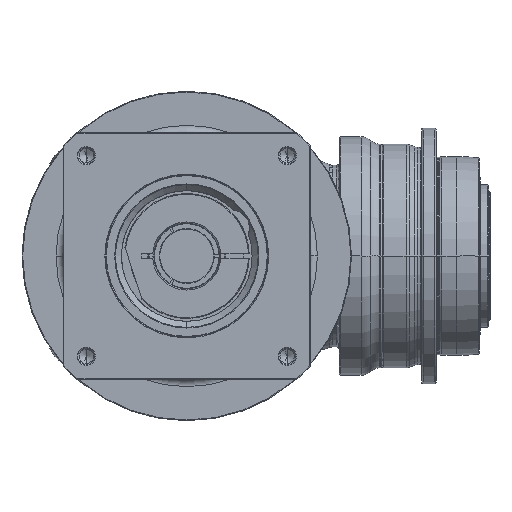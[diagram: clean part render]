
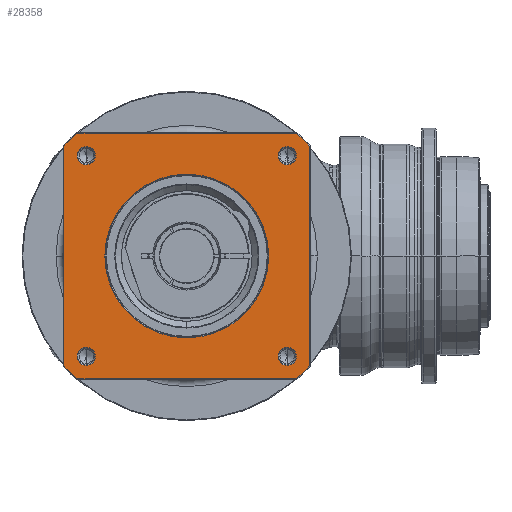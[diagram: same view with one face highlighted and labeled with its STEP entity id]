
A CAD part, front view. The second image highlights one B-rep face of the part: STEP entity #28358.
In plain terms, the highlighted planar face has unit normal (0, -1, 0) as drawn and (0, 0, 1) by its records, which use the part's own axes.
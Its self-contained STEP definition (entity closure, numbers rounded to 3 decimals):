
#27109=CARTESIAN_POINT('',(0.,0.,
76.));
#27110=DIRECTION('',(0.,0.,-1.));
#27111=DIRECTION('',(0.,-1.,0.));
#27112=AXIS2_PLACEMENT_3D('',#27109,#27110,#27111);
#27114=CARTESIAN_POINT('',(0.,0.,
76.));
#27115=DIRECTION('',(0.,0.,-1.));
#27116=DIRECTION('',(0.,1.,0.));
#27117=AXIS2_PLACEMENT_3D('',#27114,#27115,#27116);
#27119=CARTESIAN_POINT('',(0.,0.,76.));
#27120=DIRECTION('',(0.,0.,1.));
#27121=DIRECTION('',(-0.746,-0.666,0.));
#27122=AXIS2_PLACEMENT_3D('',#27119,#27120,#27121);
#27134=DIRECTION('',(1.,0.,0.));
#27135=VECTOR('',#27134,154.58);
#27136=CARTESIAN_POINT('',(-77.29,-86.5,76.));
#27137=LINE('',#27136,#27135);
#27147=CARTESIAN_POINT('',(0.,0.,76.));
#27148=DIRECTION('',(0.,0.,1.));
#27149=DIRECTION('',(0.666,-0.746,0.));
#27150=AXIS2_PLACEMENT_3D('',#27147,#27148,#27149);
#27162=DIRECTION('',(0.,1.,0.));
#27163=VECTOR('',#27162,154.58);
#27164=CARTESIAN_POINT('',(86.5,-77.29,76.));
#27165=LINE('',#27164,#27163);
#27175=CARTESIAN_POINT('',(0.,0.,76.));
#27176=DIRECTION('',(0.,0.,1.));
#27177=DIRECTION('',(0.746,0.666,0.));
#27178=AXIS2_PLACEMENT_3D('',#27175,#27176,#27177);
#27190=DIRECTION('',(-1.,0.,0.));
#27191=VECTOR('',#27190,154.58);
#27192=CARTESIAN_POINT('',(77.29,86.5,76.));
#27193=LINE('',#27192,#27191);
#27198=CARTESIAN_POINT('',(0.,0.,76.));
#27199=DIRECTION('',(0.,0.,1.));
#27200=DIRECTION('',(-0.666,0.746,0.));
#27201=AXIS2_PLACEMENT_3D('',#27198,#27199,#27200);
#27218=DIRECTION('',(0.,-1.,0.));
#27219=VECTOR('',#27218,154.58);
#27220=CARTESIAN_POINT('',(-86.5,77.29,76.));
#27221=LINE('',#27220,#27219);
#27304=CARTESIAN_POINT('',(-70.711,70.711,76.));
#27305=DIRECTION('',(0.,0.,1.));
#27306=DIRECTION('',(-1.,0.,0.));
#27307=AXIS2_PLACEMENT_3D('',#27304,#27305,#27306);
#27322=CARTESIAN_POINT('',(-70.711,70.711,76.));
#27323=DIRECTION('',(0.,0.,1.));
#27324=DIRECTION('',(1.,0.,0.));
#27325=AXIS2_PLACEMENT_3D('',#27322,#27323,#27324);
#27358=CARTESIAN_POINT('',(70.711,70.711,76.));
#27359=DIRECTION('',(0.,0.,1.));
#27360=DIRECTION('',(-1.,0.,0.));
#27361=AXIS2_PLACEMENT_3D('',#27358,#27359,#27360);
#27376=CARTESIAN_POINT('',(70.711,70.711,76.));
#27377=DIRECTION('',(0.,0.,1.));
#27378=DIRECTION('',(1.,0.,0.));
#27379=AXIS2_PLACEMENT_3D('',#27376,#27377,#27378);
#27412=CARTESIAN_POINT('',(70.711,-70.711,76.));
#27413=DIRECTION('',(0.,0.,1.));
#27414=DIRECTION('',(-1.,0.,0.));
#27415=AXIS2_PLACEMENT_3D('',#27412,#27413,#27414);
#27430=CARTESIAN_POINT('',(70.711,-70.711,76.));
#27431=DIRECTION('',(0.,0.,1.));
#27432=DIRECTION('',(1.,0.,0.));
#27433=AXIS2_PLACEMENT_3D('',#27430,#27431,#27432);
#27466=CARTESIAN_POINT('',(-70.711,-70.711,76.));
#27467=DIRECTION('',(0.,0.,1.));
#27468=DIRECTION('',(-1.,0.,0.));
#27469=AXIS2_PLACEMENT_3D('',#27466,#27467,#27468);
#27484=CARTESIAN_POINT('',(-70.711,-70.711,76.));
#27485=DIRECTION('',(0.,0.,1.));
#27486=DIRECTION('',(1.,0.,0.));
#27487=AXIS2_PLACEMENT_3D('',#27484,#27485,#27486);
#27616=CARTESIAN_POINT('',(86.5,-77.29,76.));
#27617=CARTESIAN_POINT('',(86.5,77.29,76.));
#27618=VERTEX_POINT('',#27616);
#27619=VERTEX_POINT('',#27617);
#27624=CARTESIAN_POINT('',(77.29,-86.5,76.));
#27625=VERTEX_POINT('',#27624);
#27628=CARTESIAN_POINT('',(-77.29,-86.5,76.));
#27629=VERTEX_POINT('',#27628);
#27632=CARTESIAN_POINT('',(-86.5,-77.29,76.));
#27633=VERTEX_POINT('',#27632);
#27636=CARTESIAN_POINT('',(-86.5,77.29,76.));
#27637=VERTEX_POINT('',#27636);
#27640=CARTESIAN_POINT('',(-77.29,86.5,76.));
#27641=VERTEX_POINT('',#27640);
#27644=CARTESIAN_POINT('',(77.29,86.5,76.));
#27645=VERTEX_POINT('',#27644);
#27654=CARTESIAN_POINT('',(-77.111,70.711,76.));
#27655=CARTESIAN_POINT('',(-64.311,70.711,76.));
#27656=VERTEX_POINT('',#27654);
#27657=VERTEX_POINT('',#27655);
#27680=CARTESIAN_POINT('',(77.111,70.711,76.));
#27681=CARTESIAN_POINT('',(64.311,70.711,76.));
#27682=VERTEX_POINT('',#27680);
#27683=VERTEX_POINT('',#27681);
#27688=CARTESIAN_POINT('',(77.111,-70.711,76.));
#27689=CARTESIAN_POINT('',(64.311,-70.711,76.));
#27690=VERTEX_POINT('',#27688);
#27691=VERTEX_POINT('',#27689);
#27696=CARTESIAN_POINT('',(-64.311,-70.711,76.));
#27697=CARTESIAN_POINT('',(-77.111,-70.711,76.));
#27698=VERTEX_POINT('',#27696);
#27699=VERTEX_POINT('',#27697);
#27704=CARTESIAN_POINT('',(0.,-57.65,76.));
#27705=CARTESIAN_POINT('',(0.,57.65,
76.));
#27706=VERTEX_POINT('',#27704);
#27707=VERTEX_POINT('',#27705);
#28306=CARTESIAN_POINT('',(0.,0.,76.));
#28307=DIRECTION('',(0.,0.,1.));
#28308=DIRECTION('',(1.,0.,0.));
#28309=AXIS2_PLACEMENT_3D('',#28306,#28307,#28308);
#28310=PLANE('',#28309);
#28312=ORIENTED_EDGE('',*,*,#28311,.F.);
#28314=ORIENTED_EDGE('',*,*,#28313,.F.);
#28316=ORIENTED_EDGE('',*,*,#28315,.F.);
#28318=ORIENTED_EDGE('',*,*,#28317,.F.);
#28320=ORIENTED_EDGE('',*,*,#28319,.F.);
#28322=ORIENTED_EDGE('',*,*,#28321,.F.);
#28324=ORIENTED_EDGE('',*,*,#28323,.F.);
#28326=ORIENTED_EDGE('',*,*,#28325,.F.);
#28327=EDGE_LOOP('',(#28312,#28314,#28316,#28318,#28320,#28322,#28324,#28326));
#28328=FACE_OUTER_BOUND('',#28327,.F.);
#28329=ORIENTED_EDGE('',*,*,#28296,.F.);
#28331=ORIENTED_EDGE('',*,*,#28330,.F.);
#28332=EDGE_LOOP('',(#28329,#28331));
#28333=FACE_BOUND('',#28332,.F.);
#28335=ORIENTED_EDGE('',*,*,#28334,.T.);
#28337=ORIENTED_EDGE('',*,*,#28336,.T.);
#28338=EDGE_LOOP('',(#28335,#28337));
#28339=FACE_BOUND('',#28338,.F.);
#28341=ORIENTED_EDGE('',*,*,#28340,.T.);
#28343=ORIENTED_EDGE('',*,*,#28342,.T.);
#28344=EDGE_LOOP('',(#28341,#28343));
#28345=FACE_BOUND('',#28344,.F.);
#28347=ORIENTED_EDGE('',*,*,#28346,.T.);
#28349=ORIENTED_EDGE('',*,*,#28348,.T.);
#28350=EDGE_LOOP('',(#28347,#28349));
#28351=FACE_BOUND('',#28350,.F.);
#28353=ORIENTED_EDGE('',*,*,#28352,.T.);
#28355=ORIENTED_EDGE('',*,*,#28354,.T.);
#28356=EDGE_LOOP('',(#28353,#28355));
#28357=FACE_BOUND('',#28356,.F.);
#28358=ADVANCED_FACE('',(#28328,#28333,#28339,#28345,#28351,#28357),#28310,.T.);
#27113=CIRCLE('',#27112,57.65);
#27118=CIRCLE('',#27117,57.65);
#27123=CIRCLE('',#27122,116.);
#27151=CIRCLE('',#27150,116.);
#27179=CIRCLE('',#27178,116.);
#27202=CIRCLE('',#27201,116.);
#27308=CIRCLE('',#27307,6.4);
#27326=CIRCLE('',#27325,6.4);
#27362=CIRCLE('',#27361,6.4);
#27380=CIRCLE('',#27379,6.4);
#27416=CIRCLE('',#27415,6.4);
#27434=CIRCLE('',#27433,6.4);
#27470=CIRCLE('',#27469,6.4);
#27488=CIRCLE('',#27487,6.4);
#28296=EDGE_CURVE('',#27706,#27707,#27113,.T.);
#28311=EDGE_CURVE('',#27633,#27629,#27123,.T.);
#28313=EDGE_CURVE('',#27637,#27633,#27221,.T.);
#28315=EDGE_CURVE('',#27641,#27637,#27202,.T.);
#28317=EDGE_CURVE('',#27645,#27641,#27193,.T.);
#28319=EDGE_CURVE('',#27619,#27645,#27179,.T.);
#28321=EDGE_CURVE('',#27618,#27619,#27165,.T.);
#28323=EDGE_CURVE('',#27625,#27618,#27151,.T.);
#28325=EDGE_CURVE('',#27629,#27625,#27137,.T.);
#28330=EDGE_CURVE('',#27707,#27706,#27118,.T.);
#28334=EDGE_CURVE('',#27656,#27657,#27308,.T.);
#28336=EDGE_CURVE('',#27657,#27656,#27326,.T.);
#28340=EDGE_CURVE('',#27683,#27682,#27362,.T.);
#28342=EDGE_CURVE('',#27682,#27683,#27380,.T.);
#28346=EDGE_CURVE('',#27691,#27690,#27416,.T.);
#28348=EDGE_CURVE('',#27690,#27691,#27434,.T.);
#28352=EDGE_CURVE('',#27699,#27698,#27470,.T.);
#28354=EDGE_CURVE('',#27698,#27699,#27488,.T.);
